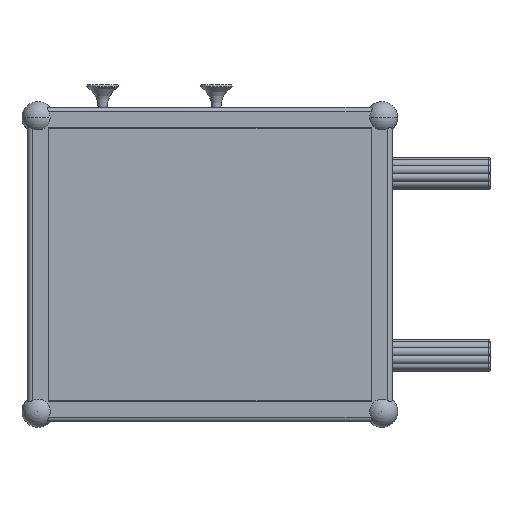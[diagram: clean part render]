
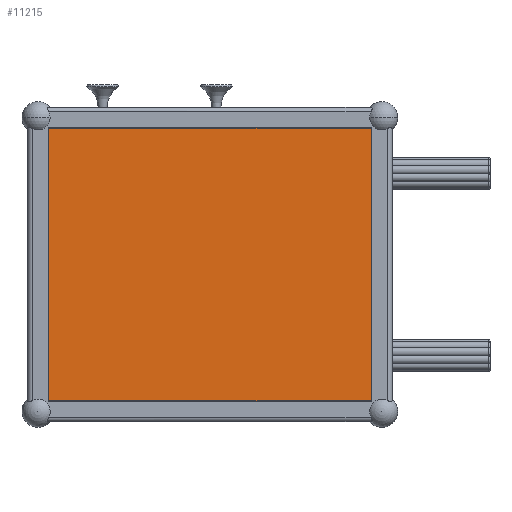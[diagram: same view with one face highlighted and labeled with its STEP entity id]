
A CAD part, left-side view. The second image highlights one B-rep face of the part: STEP entity #11215.
In plain terms, the highlighted planar face has unit normal (-1, 0, 0).
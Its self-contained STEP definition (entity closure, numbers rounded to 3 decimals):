
#212 = CARTESIAN_POINT ( 'NONE',  ( -82.475, 172.023, 660.764 ) ) ;
#239 = VERTEX_POINT ( 'NONE', #8690 ) ;
#878 = DIRECTION ( 'NONE',  ( 0., 0., 1. ) ) ;
#1026 = DIRECTION ( 'NONE',  ( 0., 0., 1. ) ) ;
#1052 = ORIENTED_EDGE ( 'NONE', *, *, #7174, .T. ) ;
#1295 = LINE ( 'NONE', #212, #12068 ) ;
#1796 = FACE_OUTER_BOUND ( 'NONE', #8329, .T. ) ;
#2685 = ORIENTED_EDGE ( 'NONE', *, *, #13412, .T. ) ;
#2953 = CARTESIAN_POINT ( 'NONE',  ( -82.475, 622.079, 660.764 ) ) ;
#3103 = LINE ( 'NONE', #2953, #8344 ) ;
#3647 = DIRECTION ( 'NONE',  ( 0., -1., 0. ) ) ;
#6154 = PLANE ( 'NONE',  #12816 ) ;
#6288 = DIRECTION ( 'NONE',  ( -1., 0., 0. ) ) ;
#6909 = VECTOR ( 'NONE', #3647, 1000. ) ;
#6983 = EDGE_CURVE ( 'NONE', #9856, #13078, #10139, .T. ) ;
#7174 = EDGE_CURVE ( 'NONE', #13078, #8313, #1295, .T. ) ;
#7394 = ORIENTED_EDGE ( 'NONE', *, *, #8401, .T. ) ;
#7665 = CARTESIAN_POINT ( 'NONE',  ( -82.475, 622.079, 660.764 ) ) ;
#8033 = CARTESIAN_POINT ( 'NONE',  ( -82.475, 172.023, 280.557 ) ) ;
#8066 = LINE ( 'NONE', #11268, #6909 ) ;
#8313 = VERTEX_POINT ( 'NONE', #7665 ) ;
#8329 = EDGE_LOOP ( 'NONE', ( #10662, #1052, #7394, #2685 ) ) ;
#8344 = VECTOR ( 'NONE', #9467, 1000. ) ;
#8401 = EDGE_CURVE ( 'NONE', #8313, #239, #3103, .T. ) ;
#8690 = CARTESIAN_POINT ( 'NONE',  ( -82.475, 622.079, 280.557 ) ) ;
#8813 = CARTESIAN_POINT ( 'NONE',  ( -82.475, 172.023, 280.557 ) ) ;
#9397 = CARTESIAN_POINT ( 'NONE',  ( -82.475, 172.023, 660.764 ) ) ;
#9467 = DIRECTION ( 'NONE',  ( 0., 0., -1. ) ) ;
#9856 = VERTEX_POINT ( 'NONE', #8813 ) ;
#10139 = LINE ( 'NONE', #8033, #10468 ) ;
#10468 = VECTOR ( 'NONE', #1026, 1000. ) ;
#10662 = ORIENTED_EDGE ( 'NONE', *, *, #6983, .T. ) ;
#11068 = DIRECTION ( 'NONE',  ( 0., 1., 0. ) ) ;
#11215 = ADVANCED_FACE ( 'NONE', ( #1796 ), #6154, .T. ) ;
#11268 = CARTESIAN_POINT ( 'NONE',  ( -82.475, 622.079, 280.557 ) ) ;
#11403 = CARTESIAN_POINT ( 'NONE',  ( -82.475, 143.051, 470.66 ) ) ;
#12068 = VECTOR ( 'NONE', #11068, 1000. ) ;
#12816 = AXIS2_PLACEMENT_3D ( 'NONE', #11403, #6288, #878 ) ;
#13078 = VERTEX_POINT ( 'NONE', #9397 ) ;
#13412 = EDGE_CURVE ( 'NONE', #239, #9856, #8066, .T. ) ;
